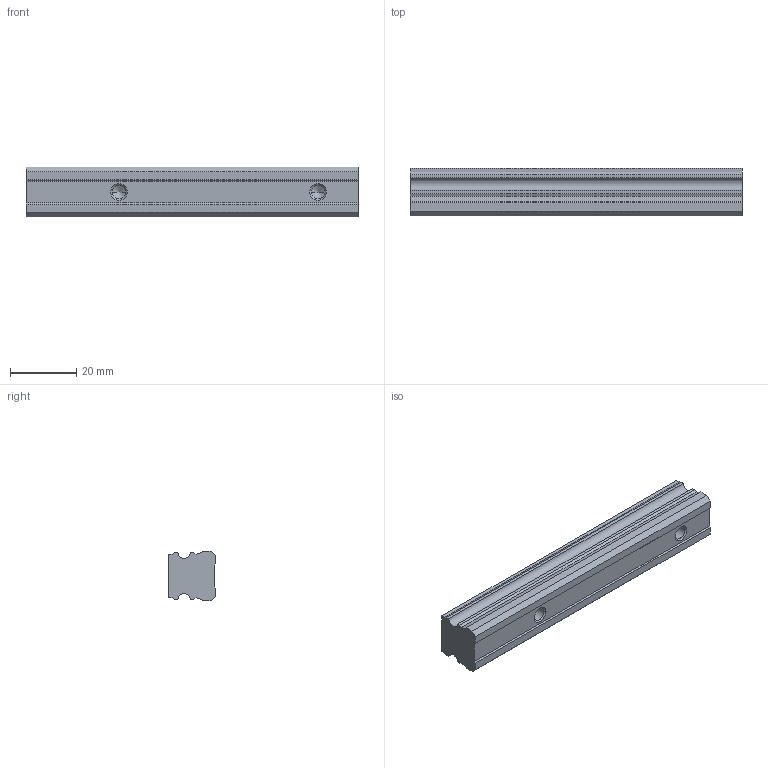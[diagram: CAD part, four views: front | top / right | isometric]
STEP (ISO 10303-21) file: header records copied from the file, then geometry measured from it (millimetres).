
FILE_DESCRIPTION( ( '' ), '1' );
FILE_NAME( 'c:/dr_tretter_step_out/schienenfuehrungen/alu_sf/b15_0100.stp', '2008-09-03T09:11:43', ( '' ), ( '' ), ' ', ' ', ' ' );
FILE_SCHEMA( ( 'CONFIG_CONTROL_DESIGN' ) );
Length unit declared in the file: millimetre
Products named in the file (1): 1
Bounding box: 100 x 14.3 x 15 mm (x, y, z)
Volume: 18416.2 mm3; surface area: 6608.4 mm2
Topology: 1 solids, 1 shells, 40 faces, 106 edges, 66 vertices
Faces by surface type: plane 26, cone 8, cylinder 6
Entity records: 1238 total; most frequent: CARTESIAN_POINT 209, ORIENTED_EDGE 204, DIRECTION 200, EDGE_CURVE 102, LINE 86, VECTOR 86, VERTEX_POINT 66, AXIS2_PLACEMENT_3D 57
